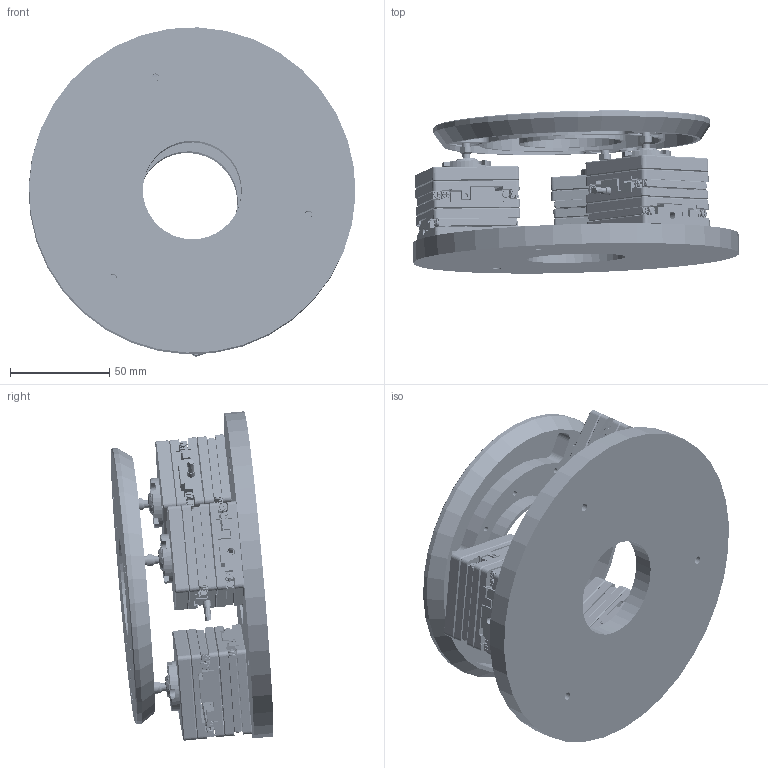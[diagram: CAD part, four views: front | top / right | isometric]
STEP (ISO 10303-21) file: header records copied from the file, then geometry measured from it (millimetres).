
FILE_DESCRIPTION (( 'STEP AP214' ), '1' );
FILE_NAME ('GO-xyrot.STEP', '2022-03-31T12:19:09', ( '' ), ( '' ), 'SwSTEP 2.0', 'SolidWorks 2016', '' );
FILE_SCHEMA (( 'AUTOMOTIVE_DESIGN' ));
Length unit declared in the file: millimetre
Products named in the file (15): GO-xyrot; BackConnector; Hexapod_top_2; FrontConnector; _SV1040- 10Z Body_4; Top; Joint_fix; Hexapod_base; SR JOINT - SRJ006C_base; SR JOINT - SRJ006C_top; Tryckstiftholder; Base; Tryckskruvholder; Cable; Ball_joint_plate
Assembly tree (76 placements, depth 2):
  GO-xyrot
    Hexapod_top_2
    Joint_fix  x3
    Base  x6
    Top  x6
    SR JOINT - SRJ006C_base  x3
    SR JOINT - SRJ006C_top  x3
    Hexapod_base
    _SV1040- 10Z Body_4  x24
    BackConnector  x6
    FrontConnector  x6
    Tryckstiftholder  x6
    Tryckskruvholder  x5
    Cable  x3
    Ball_joint_plate  x3
Bounding box: 165.13 x 82.16 x 166.29 mm (x, y, z)
Volume: 393216.5 mm3; surface area: 224390.7 mm2
Topology: 73 solids, 112 shells, 7034 faces, 18413 edges, 11406 vertices
Faces by surface type: plane 2793, cylinder 2551, cone 1339, bspline 339, sphere 12
Entity records: 46873 total; most frequent: CARTESIAN_POINT 13163, DIRECTION 6897, ORIENTED_EDGE 6324, EDGE_CURVE 3206, AXIS2_PLACEMENT_3D 2699, VERTEX_POINT 2115, EDGE_LOOP 1677, VECTOR 1499
